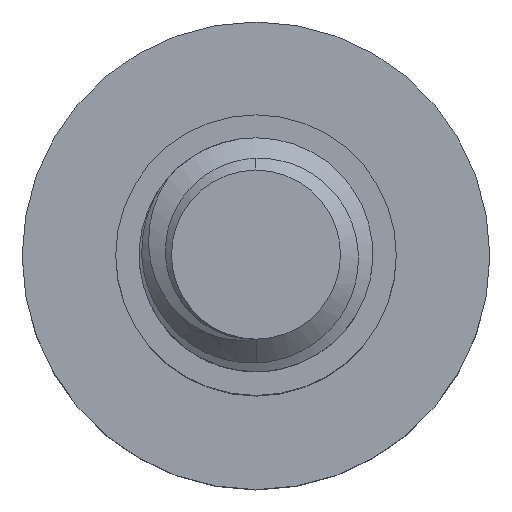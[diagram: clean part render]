
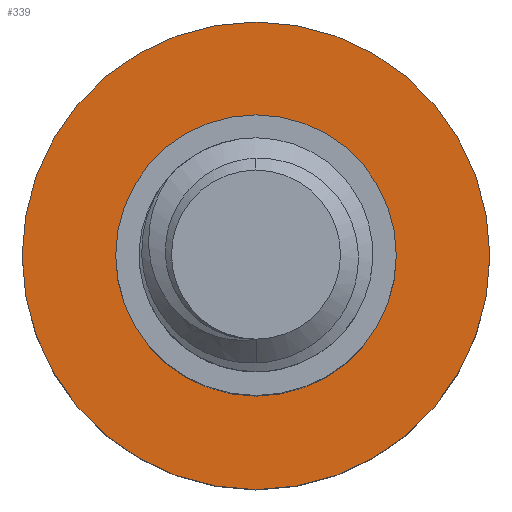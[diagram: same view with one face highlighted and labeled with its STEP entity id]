
A CAD part, top view. The second image highlights one B-rep face of the part: STEP entity #339.
In plain terms, the highlighted planar face has unit normal (0, 0, 1).
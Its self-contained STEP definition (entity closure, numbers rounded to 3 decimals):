
#28 = ORIENTED_EDGE ( 'NONE', *, *, #446, .F. ) ;
#35 = EDGE_LOOP ( 'NONE', ( #2173, #28 ) ) ;
#185 = AXIS2_PLACEMENT_3D ( 'NONE', #1471, #1101, #1850 ) ;
#200 = CARTESIAN_POINT ( 'NONE',  ( 3., 0., -8. ) ) ;
#231 = CARTESIAN_POINT ( 'NONE',  ( 0., 0., -8. ) ) ;
#260 = FACE_OUTER_BOUND ( 'NONE', #35, .T. ) ;
#272 = CARTESIAN_POINT ( 'NONE',  ( -5., 0., -8. ) ) ;
#339 = ADVANCED_FACE ( 'NONE', ( #2098, #260 ), #1540, .F. ) ;
#403 = EDGE_CURVE ( 'NONE', #2029, #1003, #679, .T. ) ;
#425 = DIRECTION ( 'NONE',  ( -1., 0., 0. ) ) ;
#446 = EDGE_CURVE ( 'NONE', #1730, #1764, #1379, .T. ) ;
#490 = DIRECTION ( 'NONE',  ( 0., 0., -1. ) ) ;
#609 = EDGE_CURVE ( 'NONE', #1764, #1730, #1537, .T. ) ;
#679 = CIRCLE ( 'NONE', #1345, 3. ) ;
#823 = CARTESIAN_POINT ( 'NONE',  ( 5., 0., -8. ) ) ;
#883 = CIRCLE ( 'NONE', #185, 3. ) ;
#1003 = VERTEX_POINT ( 'NONE', #1761 ) ;
#1069 = CARTESIAN_POINT ( 'NONE',  ( 0., 0., -8. ) ) ;
#1101 = DIRECTION ( 'NONE',  ( 0., 0., -1. ) ) ;
#1183 = DIRECTION ( 'NONE',  ( -1., 0., 0. ) ) ;
#1195 = DIRECTION ( 'NONE',  ( 0., 0., -1. ) ) ;
#1222 = AXIS2_PLACEMENT_3D ( 'NONE', #2291, #1367, #1183 ) ;
#1345 = AXIS2_PLACEMENT_3D ( 'NONE', #2108, #1195, #1575 ) ;
#1346 = DIRECTION ( 'NONE',  ( 0., 0., -1. ) ) ;
#1367 = DIRECTION ( 'NONE',  ( 0., 0., -1. ) ) ;
#1379 = CIRCLE ( 'NONE', #1222, 5. ) ;
#1456 = AXIS2_PLACEMENT_3D ( 'NONE', #1069, #490, #2371 ) ;
#1471 = CARTESIAN_POINT ( 'NONE',  ( 0., 0., -8. ) ) ;
#1537 = CIRCLE ( 'NONE', #1456, 5. ) ;
#1540 = PLANE ( 'NONE',  #2272 ) ;
#1575 = DIRECTION ( 'NONE',  ( -1., 0., 0. ) ) ;
#1693 = EDGE_LOOP ( 'NONE', ( #1710, #1826 ) ) ;
#1710 = ORIENTED_EDGE ( 'NONE', *, *, #1843, .T. ) ;
#1730 = VERTEX_POINT ( 'NONE', #272 ) ;
#1761 = CARTESIAN_POINT ( 'NONE',  ( -3., 0., -8. ) ) ;
#1764 = VERTEX_POINT ( 'NONE', #823 ) ;
#1826 = ORIENTED_EDGE ( 'NONE', *, *, #403, .T. ) ;
#1843 = EDGE_CURVE ( 'NONE', #1003, #2029, #883, .T. ) ;
#1850 = DIRECTION ( 'NONE',  ( -1., 0., 0. ) ) ;
#2029 = VERTEX_POINT ( 'NONE', #200 ) ;
#2098 = FACE_BOUND ( 'NONE', #1693, .T. ) ;
#2108 = CARTESIAN_POINT ( 'NONE',  ( 0., 0., -8. ) ) ;
#2173 = ORIENTED_EDGE ( 'NONE', *, *, #609, .F. ) ;
#2272 = AXIS2_PLACEMENT_3D ( 'NONE', #231, #1346, #425 ) ;
#2291 = CARTESIAN_POINT ( 'NONE',  ( 0., 0., -8. ) ) ;
#2371 = DIRECTION ( 'NONE',  ( -1., 0., 0. ) ) ;
